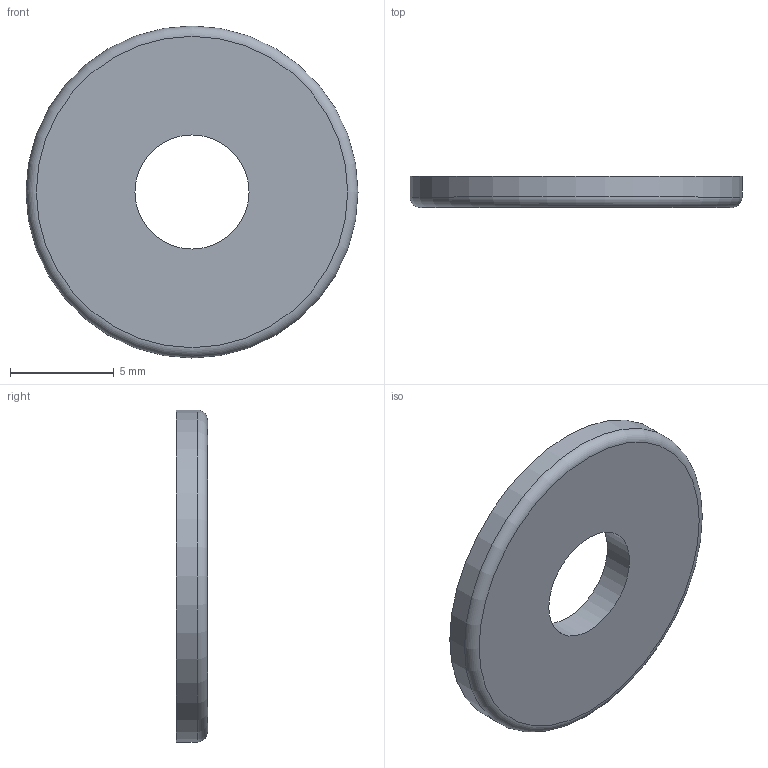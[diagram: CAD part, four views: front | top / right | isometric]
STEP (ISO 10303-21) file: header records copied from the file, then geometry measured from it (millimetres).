
FILE_DESCRIPTION(('STEP AP214'),'1');
FILE_NAME('PW16-M5.stp','2017-07-18T04:30:55',(' '),(' '),'Spatial InterOp 3D',' ',' ');
FILE_SCHEMA(('automotive_design'));
Length unit declared in the file: millimetre
Products named in the file (1): PW16-M5
Bounding box: 16 x 1.5 x 16 mm (x, y, z)
Volume: 263.3 mm3; surface area: 445 mm2
Topology: 1 solids, 1 shells, 5 faces, 8 edges, 5 vertices
Faces by surface type: cylinder 2, plane 2, torus 1
Full cylindrical faces by diameter (mm): 5.5 x1, 16 x1
Entity records: 164 total; most frequent: DIRECTION 22, CARTESIAN_POINT 16, AXIS2_PLACEMENT_3D 11, EDGE_LOOP 10, ORIENTED_EDGE 10, FACE_OUTER_BOUND 8, STYLED_ITEM 5, PRESENTATION_STYLE_ASSIGNMENT 5
